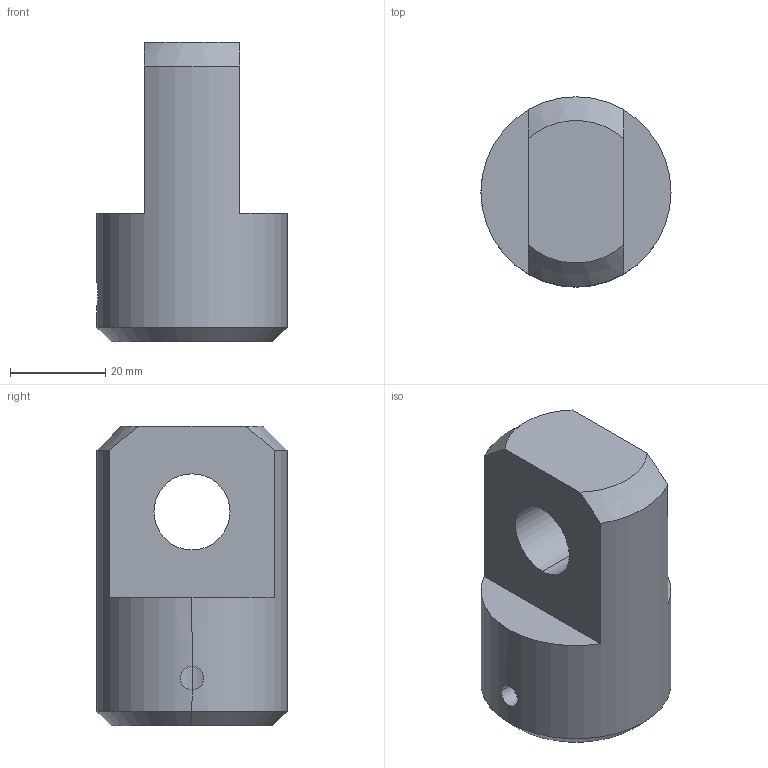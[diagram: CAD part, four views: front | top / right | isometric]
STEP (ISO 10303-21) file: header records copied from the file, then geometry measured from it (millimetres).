
FILE_DESCRIPTION (( 'STEP AP203' ), '1' );
FILE_NAME ('MJ2-GK.STEP', '2024-01-15T15:16:02', ( '' ), ( '' ), 'SwSTEP 2.0', 'SolidWorks 2022', '' );
FILE_SCHEMA (( 'CONFIG_CONTROL_DESIGN' ));
Length unit declared in the file: millimetre
Products named in the file (1): MJ2-GK
Bounding box: 40 x 40 x 63 mm (x, y, z)
Volume: 53415.9 mm3; surface area: 11250.6 mm2
Topology: 1 solids, 1 shells, 24 faces, 62 edges, 40 vertices
Faces by surface type: cylinder 10, plane 8, cone 6
Entity records: 913 total; most frequent: CARTESIAN_POINT 243, DIRECTION 126, ORIENTED_EDGE 124, EDGE_CURVE 62, AXIS2_PLACEMENT_3D 51, VERTEX_POINT 40, EDGE_LOOP 28, CIRCLE 26
